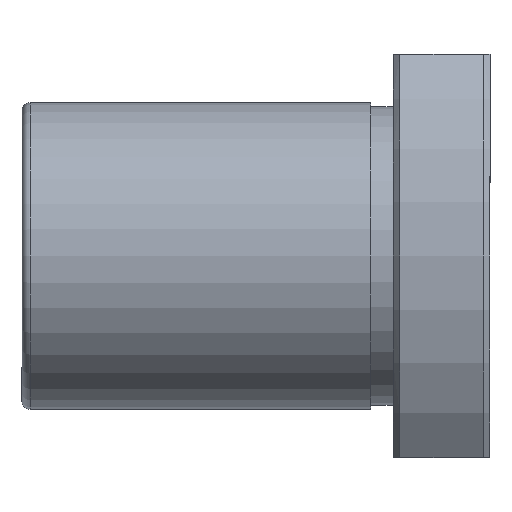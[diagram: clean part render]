
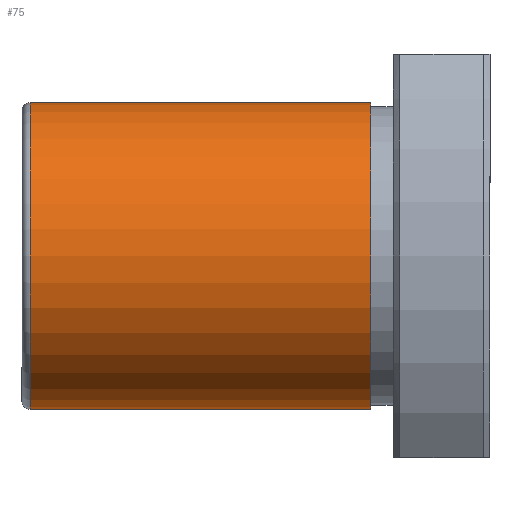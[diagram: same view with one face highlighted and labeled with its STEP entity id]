
A CAD part, front view. The second image highlights one B-rep face of the part: STEP entity #75.
In plain terms, the highlighted cylindrical face has radius 9.5 mm (diameter 19 mm), a full revolution.
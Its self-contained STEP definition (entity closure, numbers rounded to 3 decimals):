
#75=ADVANCED_FACE('',(#98,#99),#100,.T.);
#98=FACE_OUTER_BOUND('',#160,.T.);
#99=FACE_OUTER_BOUND('',#161,.T.);
#100=CYLINDRICAL_SURFACE('',#162,9.5);
#160=EDGE_LOOP('',(#222));
#161=EDGE_LOOP('',(#223));
#162=AXIS2_PLACEMENT_3D('',#224,#225,#226);
#222=ORIENTED_EDGE('',*,*,#366,.F.);
#223=ORIENTED_EDGE('',*,*,#367,.T.);
#224=CARTESIAN_POINT('',(-17.95,0.0,0.));
#225=DIRECTION('',(-1.0,-0.0,0.));
#226=DIRECTION('',(0.0,1.0,0.0));
#366=EDGE_CURVE('',#405,#405,#406,.T.);
#367=EDGE_CURVE('',#407,#407,#408,.T.);
#405=VERTEX_POINT('',#475);
#406=CIRCLE('',#476,9.5);
#407=VERTEX_POINT('',#477);
#408=CIRCLE('',#478,9.5);
#475=CARTESIAN_POINT('',(-28.5,9.5,0.));
#476=AXIS2_PLACEMENT_3D('',#577,#578,#579);
#477=CARTESIAN_POINT('',(-7.4,9.5,0.0));
#478=AXIS2_PLACEMENT_3D('',#580,#581,#582);
#577=CARTESIAN_POINT('',(-28.5,0.0,0.));
#578=DIRECTION('',(-1.0,0.0,0.));
#579=DIRECTION('',(0.0,1.0,0.0));
#580=CARTESIAN_POINT('',(-7.4,0.0,0.0));
#581=DIRECTION('',(-1.0,0.0,0.));
#582=DIRECTION('',(0.0,1.0,0.0));
